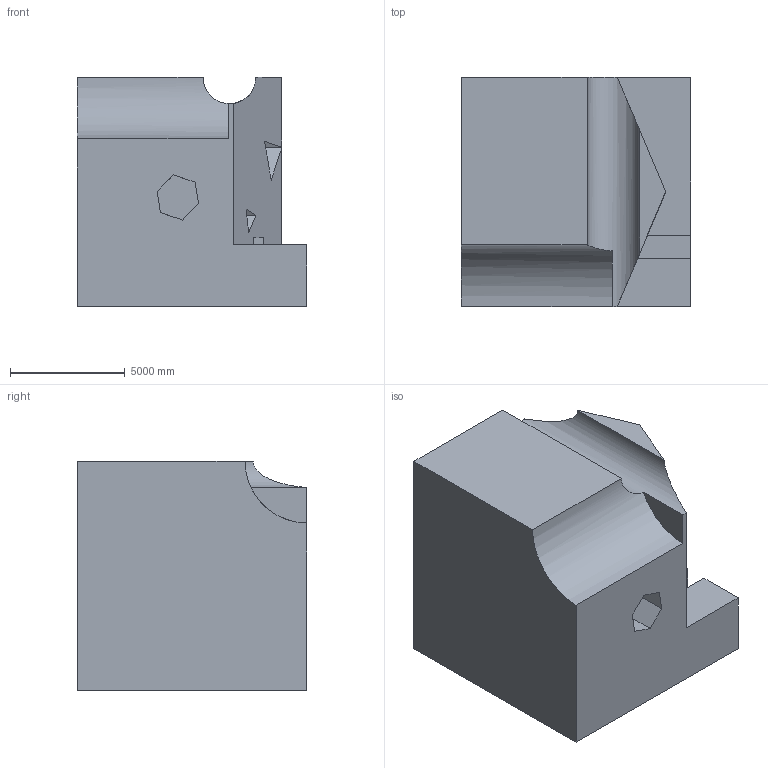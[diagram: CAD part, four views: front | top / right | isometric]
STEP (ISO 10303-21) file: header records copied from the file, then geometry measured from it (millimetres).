
FILE_DESCRIPTION (( 'STEP AP203' ), '1' );
FILE_NAME ('678.STEP', '2022-07-29T12:28:25', ( 'user' ), ( '' ), 'SwSTEP 2.0', 'SolidWorks 2021', '' );
FILE_SCHEMA (( 'CONFIG_CONTROL_DESIGN' ));
Length unit declared in the file: centimetre
Products named in the file (1): 678
Bounding box: 10000 x 10000 x 10000 mm (x, y, z)
Volume: 752427692563.5 mm3; surface area: 659018311.5 mm2
Topology: 1 solids, 1 shells, 36 faces, 108 edges, 72 vertices
Faces by surface type: plane 34, cylinder 2
Entity records: 1336 total; most frequent: CARTESIAN_POINT 280, ORIENTED_EDGE 216, DIRECTION 183, EDGE_CURVE 108, VECTOR 101, LINE 101, VERTEX_POINT 72, AXIS2_PLACEMENT_3D 41
